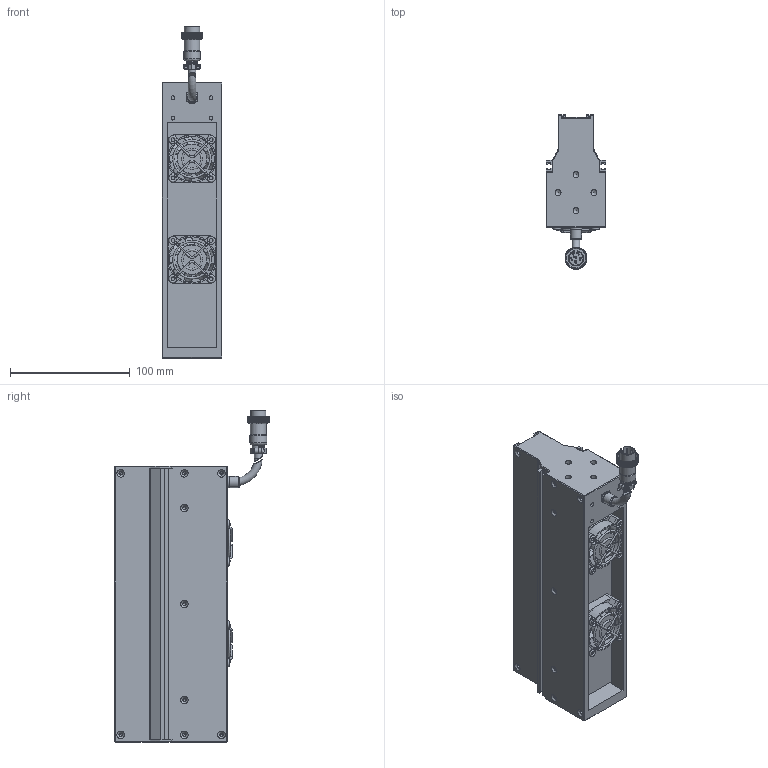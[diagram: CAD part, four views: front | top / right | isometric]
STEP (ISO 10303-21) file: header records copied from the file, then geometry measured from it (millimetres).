
FILE_DESCRIPTION (( 'STEP AP203' ), '1' );
FILE_NAME ('OPT-LSS230-W-V3.1U尨砩芞.STEP', '2025-01-20T08:58:41', ( 'USER' ), ( '' ), 'SwSTEP 2.0', 'SolidWorks 2016', '' );
FILE_SCHEMA (( 'CONFIG_CONTROL_DESIGN' ));
Products named in the file (2): OPT-LSS230-W-V3.1U尨砩芞
Bounding box: 50 x 128.85 x 276.78 mm (x, y, z)
Volume: 781774.8 mm3; surface area: 143163.6 mm2
Topology: 14 solids, 26 shells, 3743 faces, 8271 edges, 4645 vertices
Faces by surface type: bspline 2113, cylinder 768, plane 691, torus 118, cone 53
Full cylindrical faces by diameter (mm): 0.95 x6, 1.1 x2, 1.4 x2, 1.6 x8, 2 x6, 2.5 x18, 3.2 x12, 3.4 x18, 3.5 x8, 5 x8, 6.2 x8, 6.4 x3, 7.5 x1, 8.6 x1, 9.3 x1, 9.8 x1, 10 x1, 13.2 x1, 14 x1, 16.1 x1, 24.8 x2, 38 x2
Entity records: 125951 total; most frequent: CARTESIAN_POINT 63423, ORIENTED_EDGE 15972, EDGE_CURVE 7986, DIRECTION 6340, B_SPLINE_CURVE_WITH_KNOTS 5588, VERTEX_POINT 4576, EDGE_LOOP 4058, FACE_OUTER_BOUND 3898
